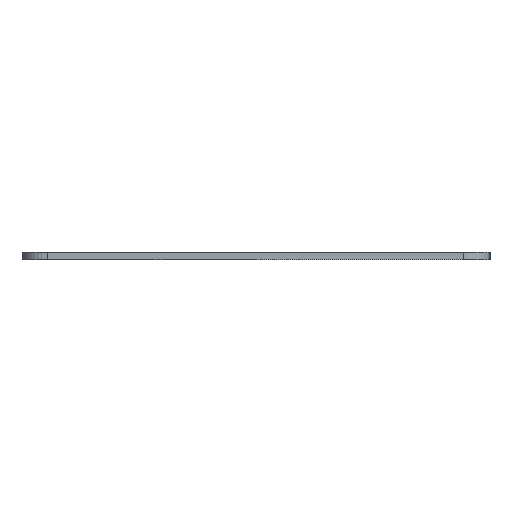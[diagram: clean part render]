
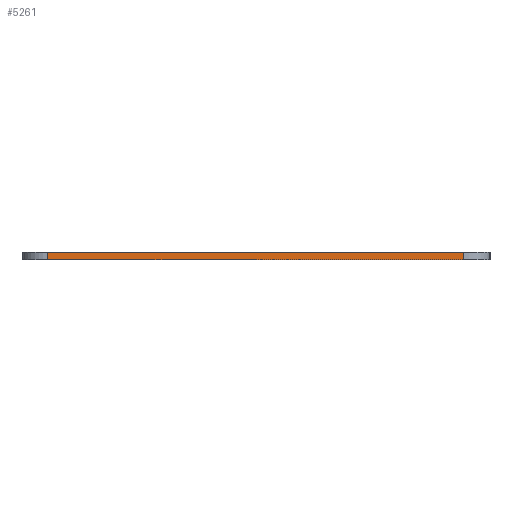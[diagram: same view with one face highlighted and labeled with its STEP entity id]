
A CAD part, left-side view. The second image highlights one B-rep face of the part: STEP entity #5261.
In plain terms, the highlighted planar face has unit normal (-1, 0, 0).
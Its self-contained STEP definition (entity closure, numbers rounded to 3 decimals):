
#464=DIRECTION('',(0.,-1.,0.));
#465=VECTOR('',#464,101.6);
#466=CARTESIAN_POINT('',(0.,50.8,0.));
#467=LINE('',#466,#465);
#971=DIRECTION('',(0.,-1.,0.));
#972=VECTOR('',#971,101.6);
#973=CARTESIAN_POINT('',(0.,50.8,-1.9));
#974=LINE('',#973,#972);
#2001=DIRECTION('',(0.,0.,1.));
#2002=VECTOR('',#2001,1.9);
#2003=CARTESIAN_POINT('',(0.,50.8,-1.9));
#2004=LINE('',#2003,#2002);
#2005=DIRECTION('',(0.,0.,1.));
#2006=VECTOR('',#2005,1.9);
#2007=CARTESIAN_POINT('',(0.,-50.8,-1.9));
#2008=LINE('',#2007,#2006);
#2586=CARTESIAN_POINT('',(0.,50.8,0.));
#2588=VERTEX_POINT('',#2586);
#2589=CARTESIAN_POINT('',(0.,50.8,-1.9));
#2590=VERTEX_POINT('',#2589);
#2593=CARTESIAN_POINT('',(0.,-50.8,0.));
#2595=VERTEX_POINT('',#2593);
#2599=CARTESIAN_POINT('',(0.,-50.8,-1.9));
#2600=VERTEX_POINT('',#2599);
#5249=CARTESIAN_POINT('',(0.,0.,-0.95));
#5250=DIRECTION('',(-1.,0.,0.));
#5251=DIRECTION('',(0.,-1.,0.));
#5252=AXIS2_PLACEMENT_3D('',#5249,#5250,#5251);
#5253=PLANE('',#5252);
#5254=ORIENTED_EDGE('',*,*,#5242,.T.);
#5255=ORIENTED_EDGE('',*,*,#2780,.T.);
#5257=ORIENTED_EDGE('',*,*,#5256,.F.);
#5258=ORIENTED_EDGE('',*,*,#3128,.F.);
#5259=EDGE_LOOP('',(#5254,#5255,#5257,#5258));
#5260=FACE_OUTER_BOUND('',#5259,.F.);
#2780=EDGE_CURVE('',#2588,#2595,#467,.T.);
#3128=EDGE_CURVE('',#2590,#2600,#974,.T.);
#5242=EDGE_CURVE('',#2590,#2588,#2004,.T.);
#5256=EDGE_CURVE('',#2600,#2595,#2008,.T.);
#5261=ADVANCED_FACE('',(#5260),#5253,.T.);
